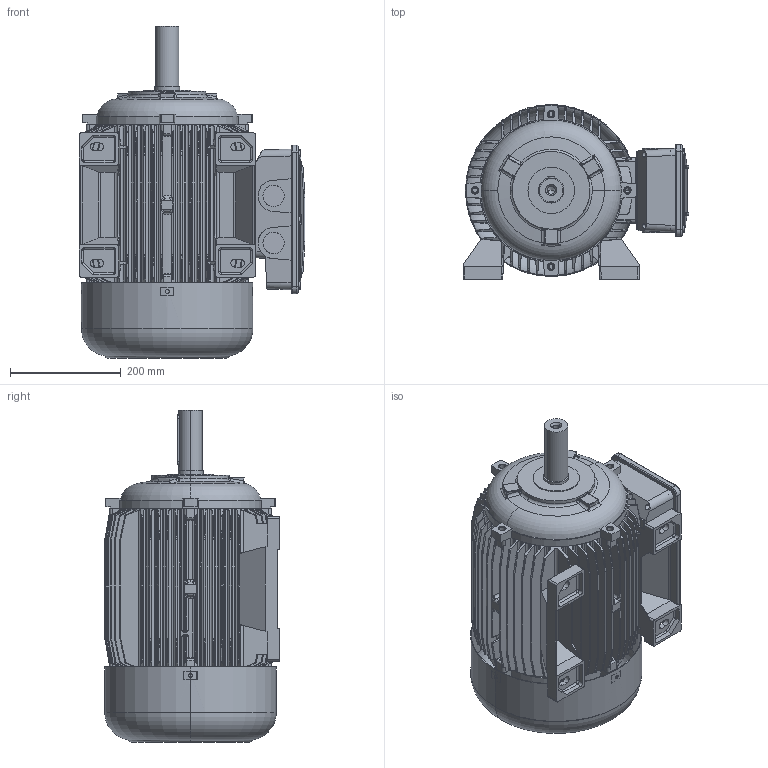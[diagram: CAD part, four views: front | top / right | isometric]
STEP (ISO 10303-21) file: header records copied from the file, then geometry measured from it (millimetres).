
FILE_DESCRIPTION (( 'STEP AP214' ), '1' );
FILE_NAME ('M24KA0010.STEP', '2019-04-16T10:16:25', ( '' ), ( '' ), 'SwSTEP 2.0', 'SolidWorks 2018', '' );
FILE_SCHEMA (( 'AUTOMOTIVE_DESIGN' ));
Length unit declared in the file: millimetre
Products named in the file (12): Chiavetta 160; Albero SM 160 M; Scatola Morsettiera Doppia BA 160 - 180 - 200 - Completa; Guarnizione Basetta BA 160-180 - 200 - D6BB0000; Vite Testa Bombata M6x20; Guarnizione Coperchio Sc. Mor. BA 160-180-200 - D6BA0100; Coperchio Scatola Morsettiera Doppia BA 160 - 180 - 200 - D6A60099; Scatola morsettiera 160; Scudo Lato Comando B3 160 - D6AB0094; Carcassa 160 M B3; M24KA0010; Cuffia SM 160
Assembly tree (17 placements, depth 3):
  M24KA0010
    Carcassa 160 M B3
    Scudo Lato Comando B3 160 - D6AB0094  x2
    Scatola Morsettiera Doppia BA 160 - 180 - 200 - Completa
      Scatola morsettiera 160
      Coperchio Scatola Morsettiera Doppia BA 160 - 180 - 200 - D6A60099
      Guarnizione Coperchio Sc. Mor. BA 160-180-200 - D6BA0100
      Vite Testa Bombata M6x20  x6
      Guarnizione Basetta BA 160-180 - 200 - D6BB0000
    Albero SM 160 M
    Chiavetta 160
    Cuffia SM 160
Bounding box: 407.49 x 314.7 x 599 mm (x, y, z)
Volume: 7250110.1 mm3; surface area: 2450153.6 mm2
Topology: 16 solids, 16 shells, 4103 faces, 11292 edges, 7129 vertices
Faces by surface type: plane 1665, cylinder 1220, bspline 509, torus 355, cone 296, sphere 58
Entity records: 189074 total; most frequent: CARTESIAN_POINT 102946, ORIENTED_EDGE 18966, DIRECTION 15469, EDGE_CURVE 9483, VERTEX_POINT 6055, VECTOR 5253, LINE 5253, AXIS2_PLACEMENT_3D 5108
